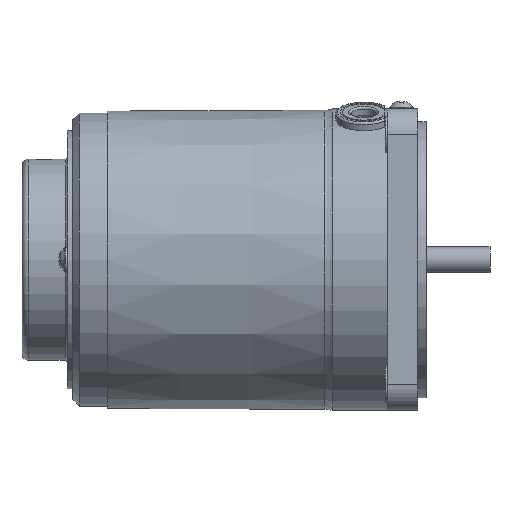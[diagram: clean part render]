
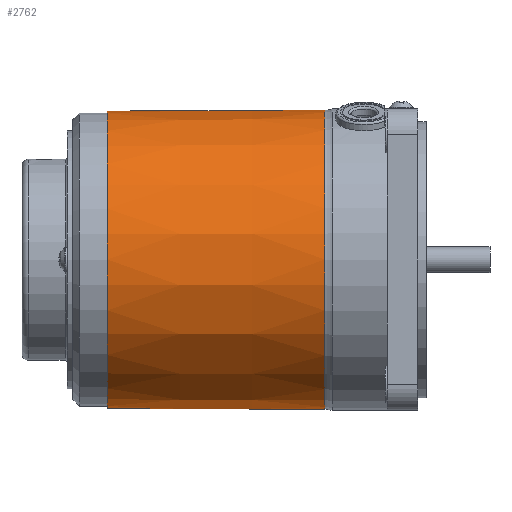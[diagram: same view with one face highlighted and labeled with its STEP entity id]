
A CAD part, top view. The second image highlights one B-rep face of the part: STEP entity #2762.
In plain terms, the highlighted conical face has half-angle 0.227 degrees and reference radius 34.6 mm.
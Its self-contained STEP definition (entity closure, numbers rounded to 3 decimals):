
#19=CONICAL_SURFACE('',#2997,34.6,0.227);
#605=FACE_BOUND('',#932,.T.);
#730=FACE_OUTER_BOUND('',#931,.T.);
#931=EDGE_LOOP('',(#2157));
#932=EDGE_LOOP('',(#2158));
#1108=CIRCLE('',#2996,34.5);
#1109=CIRCLE('',#2998,34.7);
#1299=VERTEX_POINT('',#4484);
#1300=VERTEX_POINT('',#4487);
#1610=EDGE_CURVE('',#1299,#1299,#1108,.T.);
#1611=EDGE_CURVE('',#1300,#1300,#1109,.T.);
#2157=ORIENTED_EDGE('',*,*,#1611,.F.);
#2158=ORIENTED_EDGE('',*,*,#1610,.T.);
#2762=ADVANCED_FACE('',(#730,#605),#19,.T.);
#2996=AXIS2_PLACEMENT_3D('',#4485,#3530,#3531);
#2997=AXIS2_PLACEMENT_3D('',#4486,#3532,#3533);
#2998=AXIS2_PLACEMENT_3D('',#4488,#3534,#3535);
#3530=DIRECTION('center_axis',(1.,0.,0.));
#3531=DIRECTION('ref_axis',(0.,1.,0.));
#3532=DIRECTION('center_axis',(1.,0.,0.));
#3533=DIRECTION('ref_axis',(0.,1.,0.));
#3534=DIRECTION('center_axis',(1.,0.,0.));
#3535=DIRECTION('ref_axis',(0.,1.,0.));
#4484=CARTESIAN_POINT('',(8.,34.5,0.));
#4485=CARTESIAN_POINT('Origin',(8.,0.,0.));
#4486=CARTESIAN_POINT('Origin',(33.23,0.,0.));
#4487=CARTESIAN_POINT('',(58.46,34.7,0.));
#4488=CARTESIAN_POINT('Origin',(58.46,0.,0.));
